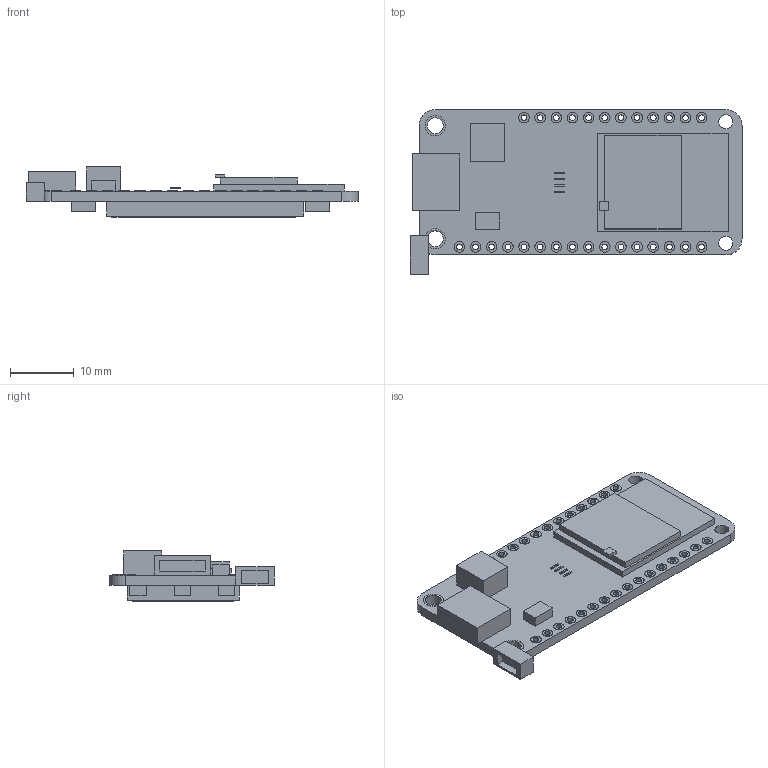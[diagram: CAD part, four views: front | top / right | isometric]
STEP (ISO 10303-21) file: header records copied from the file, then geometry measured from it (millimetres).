
FILE_DESCRIPTION(('FreeCAD Model'),'2;1');
FILE_NAME('Open CASCADE Shape Model','2026-11-14T08:22:00',('Author'),( ''),'Open CASCADE STEP processor 7.8','FreeCAD','Unknown');
FILE_SCHEMA(('AUTOMOTIVE_DESIGN { 1 0 10303 214 1 1 1 1 }'));
Length unit declared in the file: millimetre
Products named in the file (50): Board; PCB; Plated ring; Plated ring001; Plated ring002; Plated ring003; Plated ring004; Plated ring005; Plated ring006; Plated ring007; Plated ring008; Plated ring009; Plated ring010; Plated ring011; Plated ring012; Plated ring013; Plated ring014; Plated ring015; Plated ring016; Plated ring017; Plated ring018; Plated ring019; Plated ring020; Plated ring021; Plated ring022; Plated ring023; Plated ring024; Plated ring025; Plated ring026; Plated ring027; Plated ring028; Plated ring029; JST-SH 4-pin socket; JST-SH contact; JST-SH contact001; JST-SH contact002; JST-SH contact003; USB-C; USB-C opening; Battery socket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
Assembly tree (49 placements, depth 2):
  Board
    PCB
    Plated ring
    Plated ring001
    Plated ring002
    Plated ring003
    Plated ring004
    Plated ring005
    Plated ring006
    Plated ring007
    Plated ring008
    Plated ring009
    Plated ring010
    Plated ring011
    Plated ring012
    Plated ring013
    Plated ring014
    Plated ring015
    Plated ring016
    Plated ring017
    Plated ring018
    Plated ring019
    Plated ring020
    Plated ring021
    Plated ring022
    Plated ring023
    Plated ring024
    Plated ring025
    Plated ring026
    Plated ring027
    Plated ring028
    Plated ring029
    JST-SH 4-pin socket
    JST-SH contact
    JST-SH contact001
    JST-SH contact002
    JST-SH contact003
    USB-C
    USB-C opening
    Battery socket
    ESP32-S3 module
    Module shield
    NeoPixel
    TFT on opposite face
    TFT glass
    Reset component side
    D0 BOOT
    D1
    D2
    Reset display side
Bounding box: 52.23 x 25.91 x 7.87 mm (x, y, z)
Volume: 4102.6 mm3; surface area: 6856.7 mm2
Topology: 49 solids, 49 shells, 275 faces, 528 edges, 352 vertices
Faces by surface type: plane 179, cylinder 96
Full cylindrical faces by diameter (mm): 0.9 x56, 1.66 x28, 2.2 x2, 2.5 x4, 3.2 x2
Entity records: 8038 total; most frequent: DIRECTION 1370, CARTESIAN_POINT 1205, ORIENTED_EDGE 1056, EDGE_CURVE 528, AXIS2_PLACEMENT_3D 517, FACE_BOUND 400, EDGE_LOOP 400, VERTEX_POINT 352
